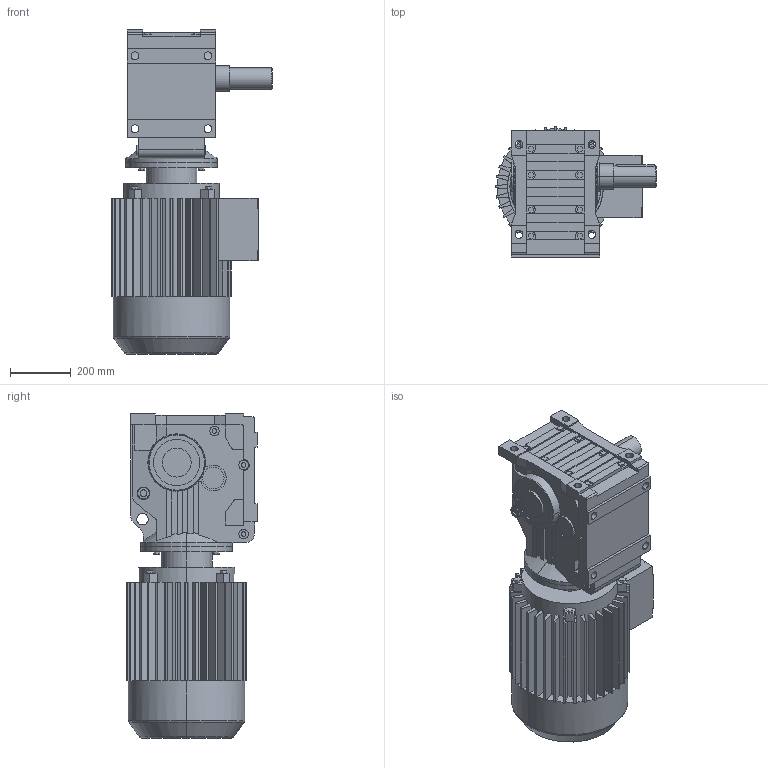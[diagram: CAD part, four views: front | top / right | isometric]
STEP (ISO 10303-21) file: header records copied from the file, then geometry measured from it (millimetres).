
FILE_DESCRIPTION(('Open CASCADE Model'),'2;1');
FILE_NAME('Open CASCADE Shape Model','2021-06-01T15:54:37',('Author'),( 'Open CASCADE'),'Open CASCADE STEP processor 6.3','Open CASCADE 6.3' ,'Unknown');
FILE_SCHEMA(('AUTOMOTIVE_DESIGN_CC2 { 1 2 10303 214 -1 1 5 4 }'));
Length unit declared in the file: millimetre
Products named in the file (4): 1_K97DV200-A; K37‵157_97.step; 萇儂_300-DV200-629-785-394-285.step; す瑩妗陑粣K_97.step
Assembly tree (3 placements, depth 2):
  1_K97DV200-A
    K37‵157_97.step
    萇儂_300-DV200-629-785-394-285.step
    す瑩妗陑粣K_97.step
Bounding box: 529 x 429.7 x 1066 mm (x, y, z)
Volume: 100053090.6 mm3; surface area: 2982600.7 mm2
Topology: 3 solids, 3 shells, 836 faces, 2204 edges, 1431 vertices
Faces by surface type: plane 582, cylinder 231, cone 15, torus 8
Entity records: 57836 total; most frequent: CARTESIAN_POINT 15955, DIRECTION 7217, ORIENTED_EDGE 4404, PCURVE 4404, DEFINITIONAL_REPRESENTATION 4404, LINE 3932, VECTOR 3932, EDGE_CURVE 2202
